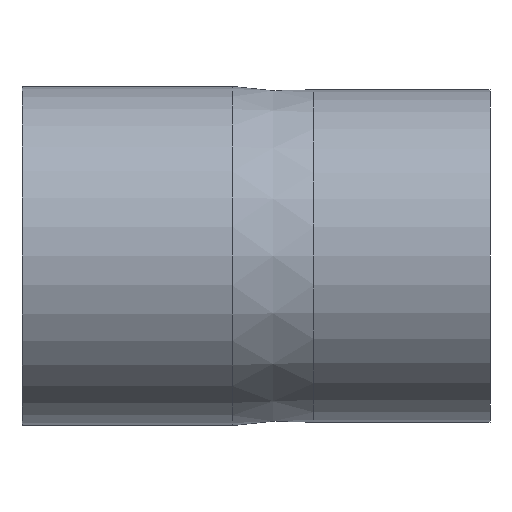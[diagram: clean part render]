
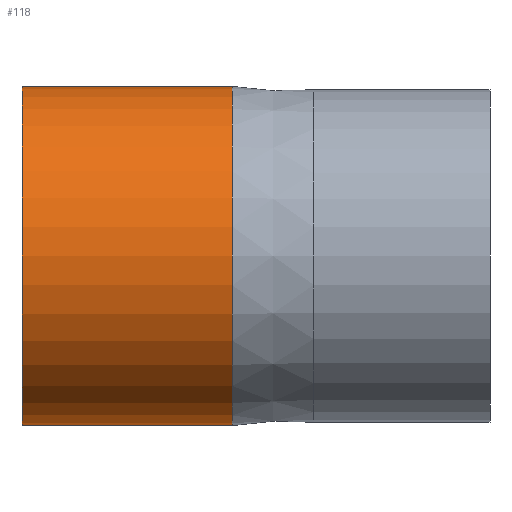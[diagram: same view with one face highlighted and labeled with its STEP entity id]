
A CAD part, front view. The second image highlights one B-rep face of the part: STEP entity #118.
In plain terms, the highlighted cylindrical face has radius 25 mm (diameter 50 mm), a full revolution.
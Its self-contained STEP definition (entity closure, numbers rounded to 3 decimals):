
#18=CYLINDRICAL_SURFACE('',#134,25.);
#25=FACE_BOUND('',#49,.T.);
#35=FACE_OUTER_BOUND('',#48,.T.);
#48=EDGE_LOOP('',(#98));
#49=EDGE_LOOP('',(#99));
#65=CIRCLE('',#133,25.);
#66=CIRCLE('',#135,25.);
#75=VERTEX_POINT('',#199);
#76=VERTEX_POINT('',#202);
#85=EDGE_CURVE('',#75,#75,#65,.T.);
#86=EDGE_CURVE('',#76,#76,#66,.T.);
#98=ORIENTED_EDGE('',*,*,#85,.T.);
#99=ORIENTED_EDGE('',*,*,#86,.F.);
#118=ADVANCED_FACE('',(#35,#25),#18,.T.);
#133=AXIS2_PLACEMENT_3D('',#200,#161,#162);
#134=AXIS2_PLACEMENT_3D('',#201,#163,#164);
#135=AXIS2_PLACEMENT_3D('',#203,#165,#166);
#161=DIRECTION('center_axis',(-1.,0.,0.));
#162=DIRECTION('ref_axis',(0.,0.,1.));
#163=DIRECTION('center_axis',(-1.,0.,0.));
#164=DIRECTION('ref_axis',(0.,-1.,0.));
#165=DIRECTION('center_axis',(-1.,0.,0.));
#166=DIRECTION('ref_axis',(0.,0.,1.));
#199=CARTESIAN_POINT('',(-3.5,-25.,0.));
#200=CARTESIAN_POINT('Origin',(-3.5,0.,0.));
#201=CARTESIAN_POINT('Origin',(-19.,0.,0.));
#202=CARTESIAN_POINT('',(-34.5,-25.,0.));
#203=CARTESIAN_POINT('Origin',(-34.5,0.,0.));
